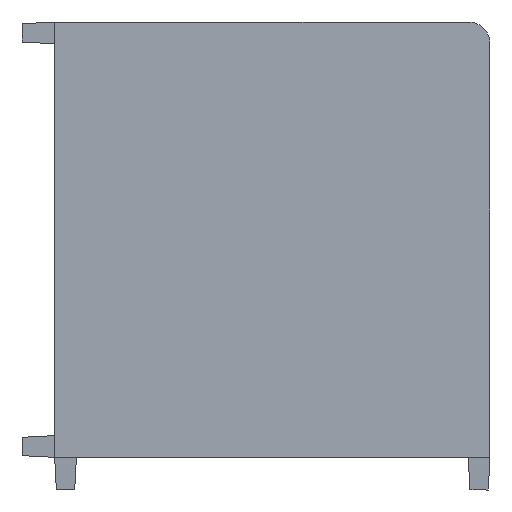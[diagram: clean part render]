
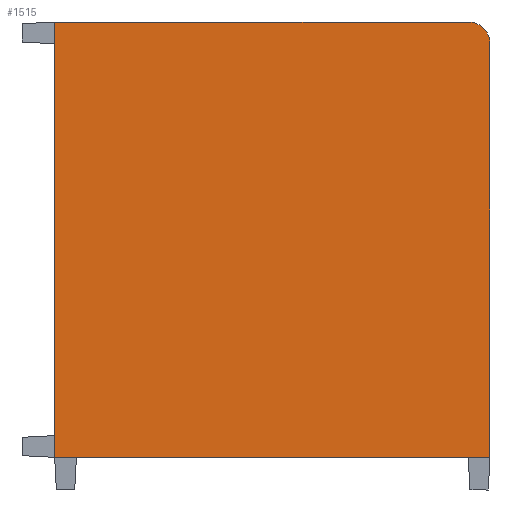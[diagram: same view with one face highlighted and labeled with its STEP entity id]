
A CAD part, front view. The second image highlights one B-rep face of the part: STEP entity #1515.
In plain terms, the highlighted planar face has unit normal (0, -1, 0).
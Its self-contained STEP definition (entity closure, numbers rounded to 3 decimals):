
#75=CIRCLE('',#1636,1.);
#127=FACE_OUTER_BOUND('',#217,.T.);
#217=EDGE_LOOP('',(#1085,#1086,#1087,#1088,#1089));
#318=LINE('',#2235,#481);
#335=LINE('',#2297,#498);
#339=LINE('',#2305,#502);
#340=LINE('',#2308,#503);
#481=VECTOR('',#1788,1000.);
#498=VECTOR('',#1851,1000.);
#502=VECTOR('',#1857,1000.);
#503=VECTOR('',#1860,1000.);
#635=VERTEX_POINT('',#2232);
#636=VERTEX_POINT('',#2234);
#658=VERTEX_POINT('',#2295);
#661=VERTEX_POINT('',#2304);
#662=VERTEX_POINT('',#2306);
#787=EDGE_CURVE('',#636,#635,#318,.T.);
#820=EDGE_CURVE('',#635,#658,#335,.T.);
#824=EDGE_CURVE('',#661,#658,#339,.T.);
#825=EDGE_CURVE('',#661,#662,#75,.T.);
#826=EDGE_CURVE('',#636,#662,#340,.T.);
#1085=ORIENTED_EDGE('',*,*,#824,.F.);
#1086=ORIENTED_EDGE('',*,*,#825,.T.);
#1087=ORIENTED_EDGE('',*,*,#826,.F.);
#1088=ORIENTED_EDGE('',*,*,#787,.T.);
#1089=ORIENTED_EDGE('',*,*,#820,.T.);
#1443=PLANE('',#1635);
#1515=ADVANCED_FACE('',(#127),#1443,.F.);
#1635=AXIS2_PLACEMENT_3D('',#2303,#1855,#1856);
#1636=AXIS2_PLACEMENT_3D('',#2307,#1858,#1859);
#1788=DIRECTION('',(0.,0.,-1.));
#1851=DIRECTION('',(1.,0.,0.));
#1855=DIRECTION('center_axis',(0.,1.,0.));
#1856=DIRECTION('ref_axis',(0.,0.,1.));
#1857=DIRECTION('',(0.,0.,-1.));
#1858=DIRECTION('center_axis',(0.,-1.,0.));
#1859=DIRECTION('ref_axis',(0.,0.,1.));
#1860=DIRECTION('',(1.,0.,0.));
#2232=CARTESIAN_POINT('',(0.413,0.049,0.));
#2234=CARTESIAN_POINT('',(0.413,0.049,20.));
#2235=CARTESIAN_POINT('',(0.413,0.049,20.));
#2295=CARTESIAN_POINT('',(20.413,0.049,0.));
#2297=CARTESIAN_POINT('',(0.413,0.049,0.));
#2303=CARTESIAN_POINT('Origin',(0.413,0.049,20.));
#2304=CARTESIAN_POINT('',(20.413,0.049,19.));
#2305=CARTESIAN_POINT('',(20.413,0.049,20.));
#2306=CARTESIAN_POINT('',(19.413,0.049,20.));
#2307=CARTESIAN_POINT('Origin',(19.413,0.049,19.));
#2308=CARTESIAN_POINT('',(0.413,0.049,20.));
